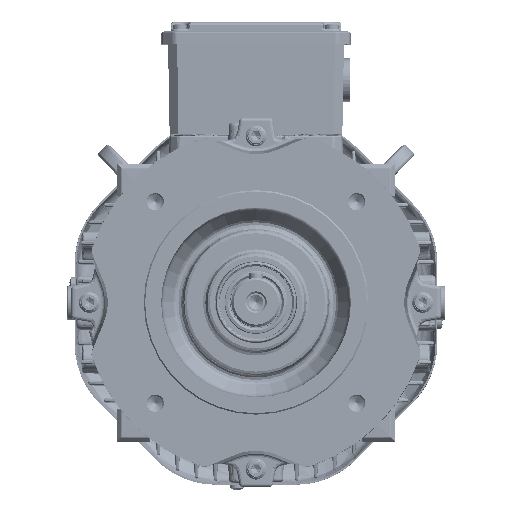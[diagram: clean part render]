
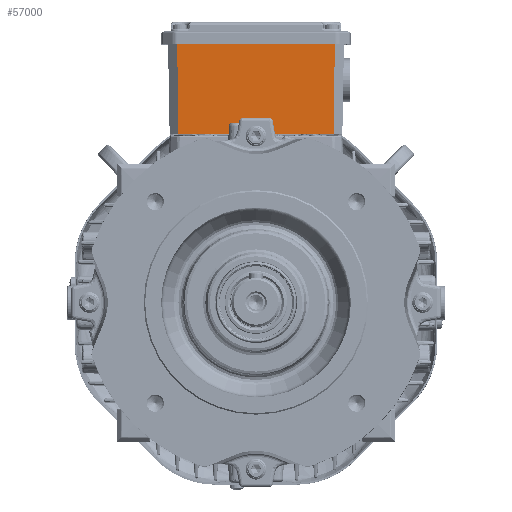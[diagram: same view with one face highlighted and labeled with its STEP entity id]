
A CAD part, top view. The second image highlights one B-rep face of the part: STEP entity #57000.
In plain terms, the highlighted planar face has unit normal (0, -0.018, 1).
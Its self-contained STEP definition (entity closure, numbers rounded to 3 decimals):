
#26593=FACE_OUTER_BOUND('',#75391,.T.);
#34736=LINE('',#413941,#42928);
#34787=LINE('',#414054,#42979);
#34789=LINE('',#414058,#42981);
#34790=LINE('',#414060,#42982);
#42928=VECTOR('',#249941,1.);
#42979=VECTOR('',#250028,1.);
#42981=VECTOR('',#250032,1.);
#42982=VECTOR('',#250035,1.);
#45287=PLANE('',#202070);
#57000=ADVANCED_FACE('',(#26593),#45287,.T.);
#75391=EDGE_LOOP('',(#128464,#128465,#128466,#128467));
#128464=ORIENTED_EDGE('',*,*,#171426,.T.);
#128465=ORIENTED_EDGE('',*,*,#171429,.F.);
#128466=ORIENTED_EDGE('',*,*,#171367,.F.);
#128467=ORIENTED_EDGE('',*,*,#171428,.T.);
#144750=VERTEX_POINT('',#413940);
#144751=VERTEX_POINT('',#413942);
#144794=VERTEX_POINT('',#414053);
#144795=VERTEX_POINT('',#414055);
#171367=EDGE_CURVE('',#144750,#144751,#34736,.T.);
#171426=EDGE_CURVE('',#144795,#144794,#34787,.T.);
#171428=EDGE_CURVE('',#144750,#144795,#34789,.T.);
#171429=EDGE_CURVE('',#144751,#144794,#34790,.T.);
#202070=AXIS2_PLACEMENT_3D('',#414061,#250036,#250037);
#249941=DIRECTION('',(-1.,0.,0.));
#250028=DIRECTION('',(-1.,0.,0.));
#250032=DIRECTION('',(0.007,1.,0.017));
#250035=DIRECTION('',(-0.007,1.,0.017));
#250036=DIRECTION('',(0.,-0.017,1.));
#250037=DIRECTION('',(0.,-1.,-0.017));
#413940=CARTESIAN_POINT('',(45.172,97.5,-16.));
#413941=CARTESIAN_POINT('',(45.172,97.5,-16.));
#413942=CARTESIAN_POINT('',(-45.172,97.5,-16.));
#414053=CARTESIAN_POINT('',(-45.548,149.5,-15.092));
#414054=CARTESIAN_POINT('',(-52.,149.5,-15.092));
#414055=CARTESIAN_POINT('',(45.548,149.5,-15.092));
#414058=CARTESIAN_POINT('',(45.172,97.5,-16.));
#414060=CARTESIAN_POINT('',(-45.172,97.5,-16.));
#414061=CARTESIAN_POINT('',(45.172,97.5,-16.));
